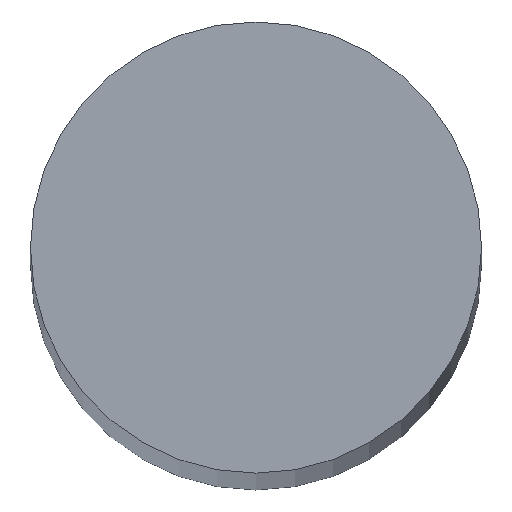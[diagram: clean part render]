
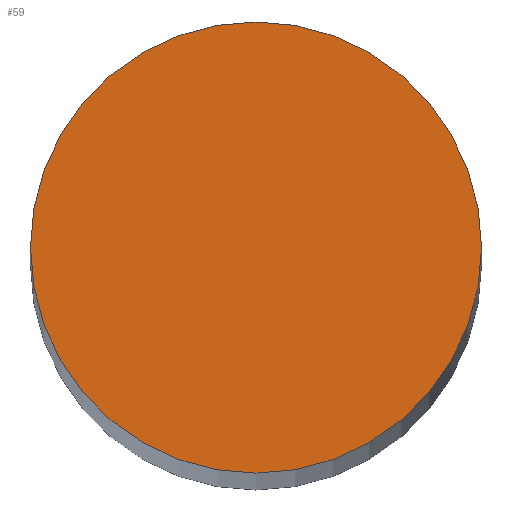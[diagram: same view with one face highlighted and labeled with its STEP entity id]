
A CAD part, top view. The second image highlights one B-rep face of the part: STEP entity #59.
In plain terms, the highlighted planar face has unit normal (0, 0, 1).
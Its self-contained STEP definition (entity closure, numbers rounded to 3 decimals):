
#24 = VERTEX_POINT('',#25);
#25 = CARTESIAN_POINT('',(1.5,0.,64.25));
#31 = EDGE_CURVE('',#24,#24,#32,.T.);
#32 = CIRCLE('',#33,1.5);
#33 = AXIS2_PLACEMENT_3D('',#34,#35,#36);
#34 = CARTESIAN_POINT('',(0.,0.,64.25));
#35 = DIRECTION('',(0.,0.,1.));
#36 = DIRECTION('',(1.,0.,0.));
#59 = ADVANCED_FACE('',(#60),#63,.T.);
#60 = FACE_BOUND('',#61,.T.);
#61 = EDGE_LOOP('',(#62));
#62 = ORIENTED_EDGE('',*,*,#31,.T.);
#63 = PLANE('',#64);
#64 = AXIS2_PLACEMENT_3D('',#65,#66,#67);
#65 = CARTESIAN_POINT('',(0.,0.,64.25)
  );
#66 = DIRECTION('',(0.,0.,1.));
#67 = DIRECTION('',(1.,0.,0.));
